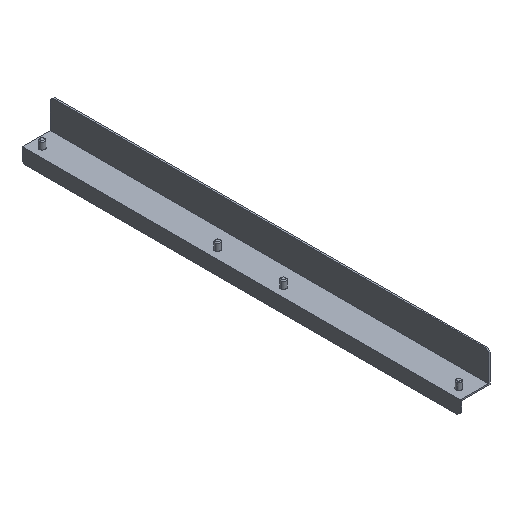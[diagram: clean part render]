
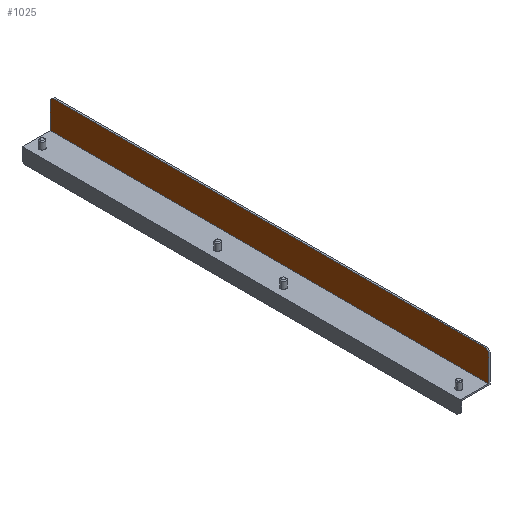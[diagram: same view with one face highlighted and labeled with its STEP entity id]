
A CAD part, isometric view. The second image highlights one B-rep face of the part: STEP entity #1025.
In plain terms, the highlighted planar face has unit normal (-1, 0, 0).
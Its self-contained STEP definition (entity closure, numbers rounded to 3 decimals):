
#25 = EDGE_CURVE ( 'NONE', #2965, #2506, #4318, .T. ) ;
#105 = VECTOR ( 'NONE', #354, 1000. ) ;
#133 = VERTEX_POINT ( 'NONE', #1718 ) ;
#344 = CARTESIAN_POINT ( 'NONE',  ( 21.5, -250., 35. ) ) ;
#354 = DIRECTION ( 'NONE',  ( 0., -1., 0. ) ) ;
#387 = CARTESIAN_POINT ( 'NONE',  ( 21.5, -250., 5.5 ) ) ;
#475 = AXIS2_PLACEMENT_3D ( 'NONE', #1665, #1251, #2275 ) ;
#611 = EDGE_CURVE ( 'NONE', #3958, #1625, #3836, .T. ) ;
#621 = FACE_OUTER_BOUND ( 'NONE', #2921, .T. ) ;
#679 = CARTESIAN_POINT ( 'NONE',  ( 21.5, 250., 5.5 ) ) ;
#737 = CARTESIAN_POINT ( 'NONE',  ( 21.5, -250., 35. ) ) ;
#749 = CARTESIAN_POINT ( 'NONE',  ( 21.5, 250., 35. ) ) ;
#767 = EDGE_CURVE ( 'NONE', #1625, #133, #4140, .T. ) ;
#876 = ORIENTED_EDGE ( 'NONE', *, *, #4225, .F. ) ;
#923 = CARTESIAN_POINT ( 'NONE',  ( 21.5, 0., 4.5 ) ) ;
#984 = VECTOR ( 'NONE', #3369, 1000. ) ;
#1024 = LINE ( 'NONE', #737, #984 ) ;
#1025 = ADVANCED_FACE ( 'NONE', ( #621 ), #3357, .F. ) ;
#1140 = CARTESIAN_POINT ( 'NONE',  ( 21.5, -250., 0. ) ) ;
#1251 = DIRECTION ( 'NONE',  ( 1., 0., 0. ) ) ;
#1272 = VERTEX_POINT ( 'NONE', #387 ) ;
#1333 = CARTESIAN_POINT ( 'NONE',  ( 21.5, 250., 4.5 ) ) ;
#1560 = ORIENTED_EDGE ( 'NONE', *, *, #767, .F. ) ;
#1561 = ORIENTED_EDGE ( 'NONE', *, *, #2477, .F. ) ;
#1625 = VERTEX_POINT ( 'NONE', #4276 ) ;
#1665 = CARTESIAN_POINT ( 'NONE',  ( 21.5, 0., 0. ) ) ;
#1702 = LINE ( 'NONE', #1753, #2911 ) ;
#1718 = CARTESIAN_POINT ( 'NONE',  ( 21.5, -247., 38. ) ) ;
#1722 = CARTESIAN_POINT ( 'NONE',  ( 21.5, 250., 5.5 ) ) ;
#1753 = CARTESIAN_POINT ( 'NONE',  ( 21.5, 250., 3. ) ) ;
#1784 = ORIENTED_EDGE ( 'NONE', *, *, #2744, .T. ) ;
#2041 = DIRECTION ( 'NONE',  ( 0., 0., -1. ) ) ;
#2248 = CARTESIAN_POINT ( 'NONE',  ( 21.5, -247., 38. ) ) ;
#2275 = DIRECTION ( 'NONE',  ( 0., 1., 0. ) ) ;
#2312 = DIRECTION ( 'NONE',  ( 0., -0.707, -0.707 ) ) ;
#2390 = EDGE_CURVE ( 'NONE', #4077, #3958, #1702, .T. ) ;
#2444 = DIRECTION ( 'NONE',  ( 0., 0., 1. ) ) ;
#2477 = EDGE_CURVE ( 'NONE', #4330, #1272, #1024, .T. ) ;
#2506 = VERTEX_POINT ( 'NONE', #3923 ) ;
#2554 = EDGE_CURVE ( 'NONE', #1272, #2506, #4192, .T. ) ;
#2744 = EDGE_CURVE ( 'NONE', #4077, #2965, #3717, .T. ) ;
#2759 = VECTOR ( 'NONE', #4255, 1000. ) ;
#2811 = CARTESIAN_POINT ( 'NONE',  ( 21.5, 247., 38. ) ) ;
#2883 = CARTESIAN_POINT ( 'NONE',  ( 21.5, 250., 35. ) ) ;
#2911 = VECTOR ( 'NONE', #2444, 1000. ) ;
#2920 = ORIENTED_EDGE ( 'NONE', *, *, #2390, .F. ) ;
#2921 = EDGE_LOOP ( 'NONE', ( #2920, #1784, #3301, #3231, #1561, #876, #1560, #4117 ) ) ;
#2965 = VERTEX_POINT ( 'NONE', #1333 ) ;
#3002 = VECTOR ( 'NONE', #3245, 1000. ) ;
#3057 = VECTOR ( 'NONE', #3893, 1000. ) ;
#3231 = ORIENTED_EDGE ( 'NONE', *, *, #2554, .F. ) ;
#3245 = DIRECTION ( 'NONE',  ( 0., -1., 0. ) ) ;
#3301 = ORIENTED_EDGE ( 'NONE', *, *, #25, .T. ) ;
#3357 = PLANE ( 'NONE',  #475 ) ;
#3369 = DIRECTION ( 'NONE',  ( 0., 0., -1. ) ) ;
#3717 = LINE ( 'NONE', #679, #4238 ) ;
#3836 = LINE ( 'NONE', #2883, #3057 ) ;
#3893 = DIRECTION ( 'NONE',  ( 0., -0.707, 0.707 ) ) ;
#3904 = VECTOR ( 'NONE', #2312, 1000. ) ;
#3923 = CARTESIAN_POINT ( 'NONE',  ( 21.5, -250., 4.5 ) ) ;
#3958 = VERTEX_POINT ( 'NONE', #749 ) ;
#3994 = LINE ( 'NONE', #2248, #3904 ) ;
#4077 = VERTEX_POINT ( 'NONE', #1722 ) ;
#4117 = ORIENTED_EDGE ( 'NONE', *, *, #611, .F. ) ;
#4140 = LINE ( 'NONE', #2811, #105 ) ;
#4192 = LINE ( 'NONE', #1140, #2759 ) ;
#4225 = EDGE_CURVE ( 'NONE', #133, #4330, #3994, .T. ) ;
#4238 = VECTOR ( 'NONE', #2041, 1000. ) ;
#4255 = DIRECTION ( 'NONE',  ( 0., 0., -1. ) ) ;
#4276 = CARTESIAN_POINT ( 'NONE',  ( 21.5, 247., 38. ) ) ;
#4318 = LINE ( 'NONE', #923, #3002 ) ;
#4330 = VERTEX_POINT ( 'NONE', #344 ) ;
